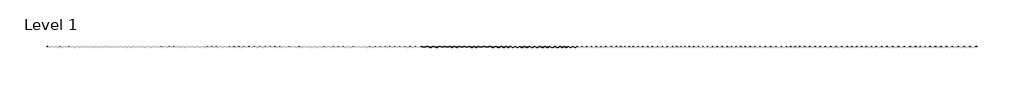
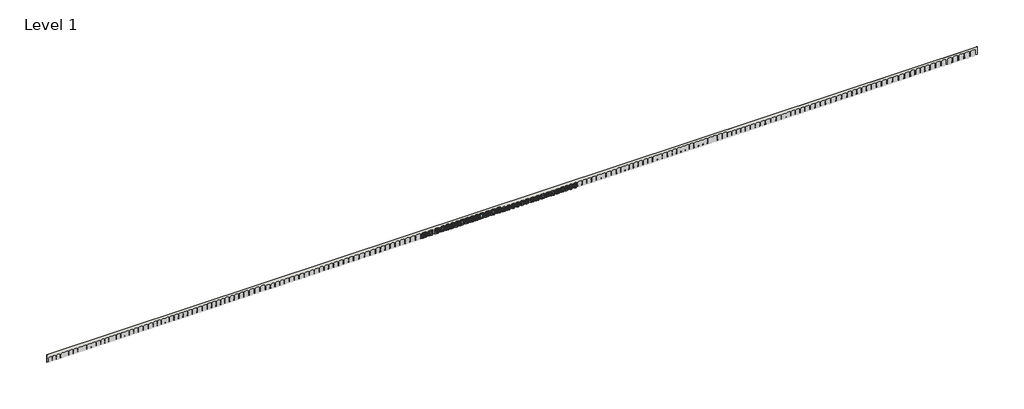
# One storey, part 2 of 3: 31 windows, 1 wall.
"""IFC4 building model written with IfcOpenShell, lengths in millimetres."""

from ifc_helpers import new_model, si_unit, frame, origin, place, context, project, spatial, polyline, outline, extrude, transform, mapped, element, save
from components import window_4662dd5e, window_cdd08d65, window_1ecaf045, window_50e5a4c0, window_b4d974a7, window_896159a1, window_2981d4df, window_d05f0d2b, window_b6a6f03b, window_d624beb0, window_91017d7e, window_d2643ceb, window_cc05f0d5, window_56d50813, window_de865a25, window_f46e62fe, window_3b753958, window_ab0b5ac2, window_0839f293, window_99e7ff35, window_ce1bcf7c, window_315856e1, window_a9078dc5, window_ffebbee1, window_79af763f, window_49bc2394, window_c44c3662, window_8911c9c3, window_26590843, window_b16b5d22, window_17699709

model = new_model("IFC4")

# Units and contexts
model_context = context("Model", 3, world=origin())
ifc_project = project(units=[si_unit("LENGTHUNIT", "METRE", prefix="MILLI")], contexts=[model_context])

# Site, building, storey
site = spatial("IfcSite", under=ifc_project)
building = spatial("IfcBuilding", under=site)
storey = spatial("IfcBuildingStorey", under=building, Name="Level 1", Elevation=0.0)

# Wall
placement = place(None, origin())
element("IfcWall", 1, ObjectType="Wall 1", at=placement, inside=storey, context=model_context, shape_type="SweptSolid", body=[
    extrude(outline(polyline([(0.0, 387151.4233676), (4000.0, 387151.4233676), (4000.0, -89848.5766324), (0.0, -89848.5766324), (0.0, -89038.5766324), (2025.398, -89038.5766324), (2025.398, -87258.5766324), (0.0, -87258.5766324), (0.0, -86938.5766324), (2025.398, -86938.5766324), (2025.398, -85158.5766324), (0.0, -85158.5766324), (0.0, -84838.5766324), (2025.398, -84838.5766324), (2025.398, -83058.5766324), (0.0, -83058.5766324), (0.0, -82638.5766324), (2025.398, -82638.5766324), (2025.398, -80858.5766324), (0.0, -80858.5766324), (0.0, -80638.5766324), (2025.398, -80638.5766324), (2025.398, -78658.5766324), (0.0, -78658.5766324), (0.0, -78338.5766324), (2025.398, -78338.5766324), (2025.398, -76358.5766324), (0.0, -76358.5766324), (0.0, -76138.5766324), (2025.398, -76138.5766324), (2025.398, -74158.5766324), (0.0, -74158.5766324), (0.0, -73838.5766324), (2025.398, -73838.5766324), (2025.398, -71858.5766324), (0.0, -71858.5766324), (0.0, -71638.5766324), (2025.398, -71638.5766324), (2025.398, -69458.5766324), (0.0, -69458.5766324), (0.0, -69238.5766324), (2025.398, -69238.5766324), (2025.398, -67058.5766324), (0.0, -67058.5766324), (0.0, -66838.5766324), (2025.398, -66838.5766324), (2025.398, -64658.5766324), (0.0, -64658.5766324), (0.0, -64438.5766324), (2025.398, -64438.5766324), (2025.398, -62258.5766324), (0.0, -62258.5766324), (0.0, -62038.5766324), (2225.398, -62038.5766324), (2225.398, -60258.5766324), (0.0, -60258.5766324), (0.0, -60038.5766324), (2225.398, -60038.5766324), (2225.398, -58258.5766324), (0.0, -58258.5766324), (0.0, -58038.5766324), (2225.398, -58038.5766324), (2225.398, -56258.5766324), (0.0, -56258.5766324), (0.0, -56138.5766324), (2225.398, -56138.5766324), (2225.398, -54358.5766324), (0.0, -54358.5766324), (0.0, -54138.5766324), (2225.398, -54138.5766324), (2225.398, -52158.5766324), (0.0, -52158.5766324), (0.0, -51838.5766324), (2225.398, -51838.5766324), (2225.398, -49858.5766324), (0.0, -49858.5766324), (0.0, -49638.5766324), (2225.398, -49638.5766324), (2225.398, -47658.5766324), (0.0, -47658.5766324), (0.0, -47438.5766324), (2225.398, -47438.5766324), (2225.398, -45458.5766324), (0.0, -45458.5766324), (0.0, -45238.5766324), (2225.398, -45238.5766324), (2225.398, -43058.5766324), (0.0, -43058.5766324), (0.0, -42738.5766324), (2225.398, -42738.5766324), (2225.398, -40558.5766324), (0.0, -40558.5766324), (0.0, -40238.5766324), (2225.398, -40238.5766324), (2225.398, -38058.5766324), (0.0, -38058.5766324), (0.0, -37638.5766324), (2225.398, -37638.5766324), (2225.398, -35458.5766324), (0.0, -35458.5766324), (0.0, -35138.5766324), (2425.398, -35138.5766324), (2425.398, -33358.5766324), (0.0, -33358.5766324), (0.0, -33138.5766324), (2425.398, -33138.5766324), (2425.398, -31358.5766324), (0.0, -31358.5766324), (0.0, -30938.5766324), (2425.398, -30938.5766324), (2425.398, -29158.5766324), (0.0, -29158.5766324), (0.0, -28938.5766324), (2425.398, -28938.5766324), (2425.398, -27158.5766324), (0.0, -27158.5766324), (0.0, -26838.5766324), (2425.398, -26838.5766324), (2425.398, -24858.5766324), (0.0, -24858.5766324), (0.0, -24438.5766324), (2425.398, -24438.5766324), (2425.398, -22458.5766324), (0.0, -22458.5766324), (0.0, -22138.5766324), (2425.398, -22138.5766324), (2425.398, -20158.5766324), (0.0, -20158.5766324), (0.0, -19838.5766324), (2425.398, -19838.5766324), (2425.398, -17858.5766324), (0.0, -17858.5766324), (0.0, -17538.5766324), (2425.398, -17538.5766324), (2425.398, -15358.5766324), (0.0, -15358.5766324), (0.0, -15138.5766324), (2425.398, -15138.5766324), (2425.398, -12958.5766324), (0.0, -12958.5766324), (0.0, -12538.5766324), (2425.398, -12538.5766324), (2425.398, -10358.5766324), (0.0, -10358.5766324), (0.0, -9938.5766324), (2425.398, -9938.5766324), (2425.398, -7758.5766324), (0.0, -7758.5766324), (0.0, -7338.5766324), (2625.398, -7338.5766324), (2625.398, -5558.5766324), (0.0, -5558.5766324), (0.0, -5038.5766324), (2625.398, -5038.5766324), (2625.398, -3258.5766324), (0.0, -3258.5766324), (0.0, -2738.5766324), (2625.398, -2738.5766324), (2625.398, -958.5766324), (0.0, -958.5766324), (0.0, -538.5766324), (2625.398, -538.5766324), (2625.398, 1241.4233676), (0.0, 1241.4233676), (0.0, 1561.4233676), (2625.398, 1561.4233676), (2625.398, 3541.4233676), (0.0, 3541.4233676), (0.0, 3961.4233676), (2625.398, 3961.4233676), (2625.398, 5941.4233676), (0.0, 5941.4233676), (0.0, 6461.4233676), (2625.398, 6461.4233676), (2625.398, 8441.4233676), (0.0, 8441.4233676), (0.0, 9061.4233676), (2625.398, 9061.4233676), (2625.398, 11041.4233676), (0.0, 11041.4233676), (0.0, 11361.4233676), (2625.398, 11361.4233676), (2625.398, 13541.4233676), (0.0, 13541.4233676), (0.0, 14161.4233676), (2625.398, 14161.4233676), (2625.398, 16341.4233676), (0.0, 16341.4233676), (0.0, 16961.4233676), (2625.398, 16961.4233676), (2625.398, 19141.4233676), (0.0, 19141.4233676), (0.0, 19761.4233676), (2625.398, 19761.4233676), (2625.398, 21941.4233676), (0.0, 21941.4233676), (0.0, 22474.9233676), (2025.398, 22474.9233676), (2025.398, 24427.9233676), (0.0, 24427.9233676), (0.0, 24974.9233676), (2025.398, 24974.9233676), (2025.398, 26927.9233676), (0.0, 26927.9233676), (0.0, 27474.9233676), (2025.398, 27474.9233676), (2025.398, 29427.9233676), (0.0, 29427.9233676), (0.0, 29774.9233676), (2025.398, 29774.9233676), (2025.398, 31727.9233676), (0.0, 31727.9233676), (0.0, 32074.9233676), (2025.398, 32074.9233676), (2025.398, 34227.9233676), (0.0, 34227.9233676), (0.0, 34674.9233676), (2025.398, 34674.9233676), (2025.398, 36827.9233676), (0.0, 36827.9233676), (0.0, 37074.9233676), (2025.398, 37074.9233676), (2025.398, 39227.9233676), (0.0, 39227.9233676), (0.0, 39774.9233676), (2025.398, 39774.9233676), (2025.398, 41927.9233676), (0.0, 41927.9233676), (0.0, 42174.9233676), (2025.398, 42174.9233676), (2025.398, 44527.9233676), (0.0, 44527.9233676), (0.0, 44774.9233676), (2025.398, 44774.9233676), (2025.398, 47127.9233676), (0.0, 47127.9233676), (0.0, 47374.9233676), (2025.398, 47374.9233676), (2025.398, 49727.9233676), (0.0, 49727.9233676), (0.0, 49974.9233676), (2225.398, 49974.9233676), (2225.398, 51927.9233676), (0.0, 51927.9233676), (0.0, 52474.9233676), (2225.398, 52474.9233676), (2225.398, 54427.9233676), (0.0, 54427.9233676), (0.0, 54874.9233676), (2225.398, 54874.9233676), (2225.398, 56827.9233676), (0.0, 56827.9233676), (0.0, 57274.9233676), (2225.398, 57274.9233676), (2225.398, 59427.9233676), (0.0, 59427.9233676), (0.0, 59874.9233676), (2225.398, 59874.9233676), (2225.398, 62027.9233676), (0.0, 62027.9233676), (0.0, 62474.9233676), (2225.398, 62474.9233676), (2225.398, 64627.9233676), (0.0, 64627.9233676), (0.0, 64974.9233676), (2225.398, 64974.9233676), (2225.398, 67127.9233676), (0.0, 67127.9233676), (0.0, 67674.9233676), (2225.398, 67674.9233676), (2225.398, 70027.9233676), (0.0, 70027.9233676), (0.0, 70474.9233676), (2225.398, 70474.9233676), (2225.398, 72827.9233676), (0.0, 72827.9233676), (0.0, 73174.9233676), (2225.398, 73174.9233676), (2225.398, 75527.9233676), (0.0, 75527.9233676), (0.0, 76074.9233676), (2225.398, 76074.9233676), (2225.398, 78427.9233676), (0.0, 78427.9233676), (0.0, 78874.9233676), (2425.398, 78874.9233676), (2425.398, 80827.9233676), (0.0, 80827.9233676), (0.0, 81374.9233676), (2425.398, 81374.9233676), (2425.398, 83327.9233676), (0.0, 83327.9233676), (0.0, 83874.9233676), (2425.398, 83874.9233676), (2425.398, 85827.9233676), (0.0, 85827.9233676), (0.0, 86374.9233676), (2425.398, 86374.9233676), (2425.398, 88327.9233676), (0.0, 88327.9233676), (0.0, 88774.9233676), (2425.398, 88774.9233676), (2425.398, 90927.9233676), (0.0, 90927.9233676), (0.0, 91274.9233676), (2425.398, 91274.9233676), (2425.398, 93427.9233676), (0.0, 93427.9233676), (0.0, 93974.9233676), (2425.398, 93974.9233676), (2425.398, 96127.9233676), (0.0, 96127.9233676), (0.0, 96674.9233676), (2425.398, 96674.9233676), (2425.398, 98827.9233676), (0.0, 98827.9233676), (0.0, 99374.9233676), (2425.398, 99374.9233676), (2425.398, 101727.9233676), (0.0, 101727.9233676), (0.0, 102474.9233676), (2425.398, 102474.9233676), (2425.398, 104827.9233676), (0.0, 104827.9233676), (0.0, 105674.9233676), (2425.398, 105674.9233676), (2425.398, 108027.9233676), (0.0, 108027.9233676), (0.0, 108874.9233676), (2425.398, 108874.9233676), (2425.398, 111227.9233676), (0.0, 111227.9233676), (0.0, 111974.9233676), (2625.398, 111974.9233676), (2625.398, 113927.9233676), (0.0, 113927.9233676), (0.0, 114574.9233676), (2625.398, 114574.9233676), (2625.398, 116527.9233676), (0.0, 116527.9233676), (0.0, 116974.9233676), (2625.398, 116974.9233676), (2625.398, 118927.9233676), (0.0, 118927.9233676), (0.0, 119374.9233676), (2625.398, 119374.9233676), (2625.398, 121327.9233676), (0.0, 121327.9233676), (0.0, 121774.9233676), (2625.398, 121774.9233676), (2625.398, 123927.9233676), (0.0, 123927.9233676), (0.0, 124374.9233676), (2625.398, 124374.9233676), (2625.398, 126527.9233676), (0.0, 126527.9233676), (0.0, 126874.9233676), (2625.398, 126874.9233676), (2625.398, 129027.9233676), (0.0, 129027.9233676), (0.0, 129274.9233676), (2625.398, 129274.9233676), (2625.398, 131427.9233676), (0.0, 131427.9233676), (0.0, 131674.9233676), (2625.398, 131674.9233676), (2625.398, 134027.9233676), (0.0, 134027.9233676), (0.0, 134674.9233676), (2625.398, 134674.9233676), (2625.398, 137027.9233676), (0.0, 137027.9233676), (0.0, 137674.9233676), (2625.398, 137674.9233676), (2625.398, 140027.9233676), (0.0, 140027.9233676), (0.0, 140574.9233676), (2625.398, 140574.9233676), (2625.398, 142927.9233676), (0.0, 142927.9233676), (0.0, 143461.4233676), (2025.398, 143461.4233676), (2025.398, 145241.4233676), (0.0, 145241.4233676), (0.0, 145861.4233676), (2025.398, 145861.4233676), (2025.398, 147641.4233676), (0.0, 147641.4233676), (0.0, 148261.4233676), (2025.398, 148261.4233676), (2025.398, 150041.4233676), (0.0, 150041.4233676), (0.0, 150561.4233676), (2025.398, 150561.4233676), (2025.398, 152341.4233676), (0.0, 152341.4233676), (0.0, 152861.4233676), (2025.398, 152861.4233676), (2025.398, 154841.4233676), (0.0, 154841.4233676), (0.0, 155261.4233676), (2025.398, 155261.4233676), (2025.398, 157241.4233676), (0.0, 157241.4233676), (0.0, 157961.4233676), (2025.398, 157961.4233676), (2025.398, 159941.4233676), (0.0, 159941.4233676), (0.0, 160561.4233676), (2025.398, 160561.4233676), (2025.398, 162541.4233676), (0.0, 162541.4233676), (0.0, 163161.4233676), (2025.398, 163161.4233676), (2025.398, 165341.4233676), (0.0, 165341.4233676), (0.0, 165761.4233676), (2025.398, 165761.4233676), (2025.398, 167941.4233676), (0.0, 167941.4233676), (0.0, 168261.4233676), (2025.398, 168261.4233676), (2025.398, 170441.4233676), (0.0, 170441.4233676), (0.0, 170861.4233676), (2025.398, 170861.4233676), (2025.398, 173041.4233676), (0.0, 173041.4233676), (0.0, 173461.4233676), (2225.398, 173461.4233676), (2225.398, 175241.4233676), (0.0, 175241.4233676), (0.0, 175561.4233676), (2225.398, 175561.4233676), (2225.398, 177341.4233676), (0.0, 177341.4233676), (0.0, 177761.4233676), (2225.398, 177761.4233676), (2225.398, 179541.4233676), (0.0, 179541.4233676), (0.0, 180061.4233676), (2225.398, 180061.4233676), (2225.398, 181841.4233676), (0.0, 181841.4233676), (0.0, 182361.4233676), (2225.398, 182361.4233676), (2225.398, 184341.4233676), (0.0, 184341.4233676), (0.0, 184761.4233676), (2225.398, 184761.4233676), (2225.398, 186741.4233676), (0.0, 186741.4233676), (0.0, 187161.4233676), (2225.398, 187161.4233676), (2225.398, 189141.4233676), (0.0, 189141.4233676), (0.0, 189561.4233676), (2225.398, 189561.4233676), (2225.398, 191541.4233676), (0.0, 191541.4233676), (0.0, 191961.4233676), (2225.398, 191961.4233676), (2225.398, 194141.4233676), (0.0, 194141.4233676), (0.0, 194361.4233676), (2225.398, 194361.4233676), (2225.398, 196541.4233676), (0.0, 196541.4233676), (0.0, 197061.4233676), (2225.398, 197061.4233676), (2225.398, 199241.4233676), (0.0, 199241.4233676), (0.0, 199661.4233676), (2225.398, 199661.4233676), (2225.398, 201841.4233676), (0.0, 201841.4233676), (0.0, 202361.4233676), (2425.398, 202361.4233676), (2425.398, 204141.4233676), (0.0, 204141.4233676), (0.0, 204561.4233676), (2425.398, 204561.4233676), (2425.398, 206341.4233676), (0.0, 206341.4233676), (0.0, 206661.4233676), (2425.398, 206661.4233676), (2425.398, 208441.4233676), (0.0, 208441.4233676), (0.0, 208861.4233676), (2425.398, 208861.4233676), (2425.398, 210641.4233676), (0.0, 210641.4233676), (0.0, 211061.4233676), (2425.398, 211061.4233676), (2425.398, 213041.4233676), (0.0, 213041.4233676), (0.0, 213461.4233676), (2425.398, 213461.4233676), (2425.398, 215441.4233676), (0.0, 215441.4233676), (0.0, 215961.4233676), (2425.398, 215961.4233676), (2425.398, 217941.4233676), (0.0, 217941.4233676), (0.0, 218361.4233676), (2425.398, 218361.4233676), (2425.398, 220341.4233676), (0.0, 220341.4233676), (0.0, 220861.4233676), (2425.398, 220861.4233676), (2425.398, 223041.4233676), (0.0, 223041.4233676), (0.0, 223361.4233676), (2425.398, 223361.4233676), (2425.398, 225541.4233676), (0.0, 225541.4233676), (0.0, 225861.4233676), (2425.398, 225861.4233676), (2425.398, 228041.4233676), (0.0, 228041.4233676), (0.0, 228461.4233676), (2425.398, 228461.4233676), (2425.398, 230641.4233676), (0.0, 230641.4233676), (0.0, 230961.4233676), (2625.398, 230961.4233676), (2625.398, 232741.4233676), (0.0, 232741.4233676), (0.0, 233261.4233676), (2625.398, 233261.4233676), (2625.398, 235041.4233676), (0.0, 235041.4233676), (0.0, 235361.4233676), (2625.398, 235361.4233676), (2625.398, 237141.4233676), (0.0, 237141.4233676), (0.0, 237461.4233676), (2625.398, 237461.4233676), (2625.398, 239241.4233676), (0.0, 239241.4233676), (0.0, 239661.4233676), (2625.398, 239661.4233676), (2625.398, 241641.4233676), (0.0, 241641.4233676), (0.0, 242061.4233676), (2625.398, 242061.4233676), (2625.398, 244041.4233676), (0.0, 244041.4233676), (0.0, 244361.4233676), (2625.398, 244361.4233676), (2625.398, 246341.4233676), (0.0, 246341.4233676), (0.0, 246661.4233676), (2625.398, 246661.4233676), (2625.398, 248641.4233676), (0.0, 248641.4233676), (0.0, 249061.4233676), (2625.398, 249061.4233676), (2625.398, 251241.4233676), (0.0, 251241.4233676), (0.0, 251461.4233676), (2625.398, 251461.4233676), (2625.398, 253641.4233676), (0.0, 253641.4233676), (0.0, 254061.4233676), (2625.398, 254061.4233676), (2625.398, 256241.4233676), (0.0, 256241.4233676), (0.0, 256561.4233676), (2625.398, 256561.4233676), (2625.398, 258741.4233676), (0.0, 258741.4233676), (0.0, 259074.9233676), (2025.398, 259074.9233676), (2025.398, 261027.9233676), (0.0, 261027.9233676), (0.0, 261374.9233676), (2025.398, 261374.9233676), (2025.398, 263327.9233676), (0.0, 263327.9233676), (0.0, 263674.9233676), (2025.398, 263674.9233676), (2025.398, 265627.9233676), (0.0, 265627.9233676), (0.0, 266074.9233676), (2025.398, 266074.9233676), (2025.398, 268027.9233676), (0.0, 268027.9233676), (0.0, 268374.9233676), (2025.398, 268374.9233676), (2025.398, 270527.9233676), (0.0, 270527.9233676), (0.0, 270874.9233676), (2025.398, 270874.9233676), (2025.398, 273027.9233676), (0.0, 273027.9233676), (0.0, 273374.9233676), (2025.398, 273374.9233676), (2025.398, 275527.9233676), (0.0, 275527.9233676), (0.0, 275974.9233676), (2025.398, 275974.9233676), (2025.398, 278127.9233676), (0.0, 278127.9233676), (0.0, 278674.9233676), (2025.398, 278674.9233676), (2025.398, 281027.9233676), (0.0, 281027.9233676), (0.0, 281374.9233676), (2025.398, 281374.9233676), (2025.398, 283727.9233676), (0.0, 283727.9233676), (0.0, 284174.9233676), (2025.398, 284174.9233676), (2025.398, 286527.9233676), (0.0, 286527.9233676), (0.0, 286774.9233676), (2025.398, 286774.9233676), (2025.398, 289127.9233676), (0.0, 289127.9233676), (0.0, 289374.9233676), (2225.398, 289374.9233676), (2225.398, 291327.9233676), (0.0, 291327.9233676), (0.0, 291674.9233676), (2225.398, 291674.9233676), (2225.398, 293627.9233676), (0.0, 293627.9233676), (0.0, 293974.9233676), (2225.398, 293974.9233676), (2225.398, 295927.9233676), (0.0, 295927.9233676), (0.0, 296474.9233676), (2225.398, 296474.9233676), (2225.398, 298427.9233676), (0.0, 298427.9233676), (0.0, 298874.9233676), (2225.398, 298874.9233676), (2225.398, 301027.9233676), (0.0, 301027.9233676), (0.0, 301574.9233676), (2225.398, 301574.9233676), (2225.398, 303727.9233676), (0.0, 303727.9233676), (0.0, 304274.9233676), (2225.398, 304274.9233676), (2225.398, 306427.9233676), (0.0, 306427.9233676), (0.0, 306874.9233676), (2225.398, 306874.9233676), (2225.398, 309027.9233676), (0.0, 309027.9233676), (0.0, 309474.9233676), (2225.398, 309474.9233676), (2225.398, 311827.9233676), (0.0, 311827.9233676), (0.0, 312174.9233676), (2225.398, 312174.9233676), (2225.398, 314527.9233676), (0.0, 314527.9233676), (0.0, 314974.9233676), (2225.398, 314974.9233676), (2225.398, 317327.9233676), (0.0, 317327.9233676), (0.0, 317774.9233676), (2225.398, 317774.9233676), (2225.398, 320127.9233676), (0.0, 320127.9233676), (0.0, 320574.9233676), (2425.398, 320574.9233676), (2425.398, 322527.9233676), (0.0, 322527.9233676), (0.0, 323074.9233676), (2425.398, 323074.9233676), (2425.398, 325027.9233676), (0.0, 325027.9233676), (0.0, 325574.9233676), (2425.398, 325574.9233676), (2425.398, 327527.9233676), (0.0, 327527.9233676), (0.0, 328074.9233676), (2425.398, 328074.9233676), (2425.398, 330027.9233676), (0.0, 330027.9233676), (0.0, 330474.9233676), (2425.398, 330474.9233676), (2425.398, 332627.9233676), (0.0, 332627.9233676), (0.0, 332974.9233676), (2425.398, 332974.9233676), (2425.398, 335127.9233676), (0.0, 335127.9233676), (0.0, 335574.9233676), (2425.398, 335574.9233676), (2425.398, 337727.9233676), (0.0, 337727.9233676), (0.0, 338274.9233676), (2425.398, 338274.9233676), (2425.398, 340427.9233676), (0.0, 340427.9233676), (0.0, 341074.9233676), (2425.398, 341074.9233676), (2425.398, 343427.9233676), (0.0, 343427.9233676), (0.0, 343974.9233676), (2425.398, 343974.9233676), (2425.398, 346327.9233676), (0.0, 346327.9233676), (0.0, 346974.9233676), (2425.398, 346974.9233676), (2425.398, 349327.9233676), (0.0, 349327.9233676), (0.0, 349974.9233676), (2425.398, 349974.9233676), (2425.398, 352327.9233676), (0.0, 352327.9233676), (0.0, 352974.9233676), (2625.398, 352974.9233676), (2625.398, 354927.9233676), (0.0, 354927.9233676), (0.0, 355674.9233676), (2625.398, 355674.9233676), (2625.398, 357627.9233676), (0.0, 357627.9233676), (0.0, 358074.9233676), (2625.398, 358074.9233676), (2625.398, 360027.9233676), (0.0, 360027.9233676), (0.0, 360474.9233676), (2625.398, 360474.9233676), (2625.398, 362427.9233676), (0.0, 362427.9233676), (0.0, 363174.9233676), (2625.398, 363174.9233676), (2625.398, 365327.9233676), (0.0, 365327.9233676), (0.0, 365974.9233676), (2625.398, 365974.9233676), (2625.398, 368127.9233676), (0.0, 368127.9233676), (0.0, 368774.9233676), (2625.398, 368774.9233676), (2625.398, 370927.9233676), (0.0, 370927.9233676), (0.0, 371774.9233676), (2625.398, 371774.9233676), (2625.398, 373927.9233676), (0.0, 373927.9233676), (0.0, 374574.9233676), (2625.398, 374574.9233676), (2625.398, 376927.9233676), (0.0, 376927.9233676), (0.0, 377674.9233676), (2625.398, 377674.9233676), (2625.398, 380027.9233676), (0.0, 380027.9233676), (0.0, 380674.9233676), (2625.398, 380674.9233676), (2625.398, 383027.9233676), (0.0, 383027.9233676), (0.0, 383674.9233676), (2625.398, 383674.9233676), (2625.398, 386027.9233676), (0.0, 386027.9233676), (0.0, 387151.4233676)])), frame((0.0, -2817.7066667, 0.0), z_axis=(0.0, 1.0, 0.0), x_axis=(0.0, 0.0, 1.0)), (0.0, 0.0, 1.0), 152.4),
])

# Windows
window_shape = window_4662dd5e(model_context)
element("IfcWindow", 2, ObjectType="Pollard_Windows_Tudor Casement Bows and Bays : AML-BAY 30 AFR0616-12-500_GC", at=placement, inside=storey, context=model_context, shape_type="MappedRepresentation", body=[
    mapped(window_shape, transform((103651.4233676, -2742.926046, 0.0), x_axis=(1.0, 0.0, 0.0), y_axis=(0.0, 1.0, 0.0), z_axis=(0.0, 0.0, 1.0))),
])
window_2_shape = window_cdd08d65(model_context)
element("IfcWindow", 3, ObjectType="Pollard_Windows_Tudor Casement Bows and Bays : AML-BAY 30 AFR0616-12-600", at=placement, inside=storey, context=model_context, shape_type="MappedRepresentation", body=[
    mapped(window_2_shape, transform((106851.4233676, -2742.926046, 0.0), x_axis=(1.0, 0.0, 0.0), y_axis=(0.0, 1.0, 0.0), z_axis=(0.0, 0.0, 1.0))),
])
window_3_shape = window_1ecaf045(model_context)
element("IfcWindow", 4, ObjectType="Pollard_Windows_Tudor Casement Bows and Bays : AML-BAY 30 AFR0616-12-600_GC", at=placement, inside=storey, context=model_context, shape_type="MappedRepresentation", body=[
    mapped(window_3_shape, transform((110051.4233676, -2742.926046, 0.0), x_axis=(1.0, 0.0, 0.0), y_axis=(0.0, 1.0, 0.0), z_axis=(0.0, 0.0, 1.0))),
])
window_4_shape = window_50e5a4c0(model_context)
element("IfcWindow", 5, ObjectType="Pollard_Windows_Tudor Casement Bows and Bays : AML-BAY 30 AFR0618-08-500", at=placement, inside=storey, context=model_context, shape_type="MappedRepresentation", body=[
    mapped(window_4_shape, transform((112951.4233676, -2742.926046, 0.0), x_axis=(1.0, 0.0, 0.0), y_axis=(0.0, 1.0, 0.0), z_axis=(0.0, 0.0, 1.0))),
])
window_5_shape = window_b4d974a7(model_context)
element("IfcWindow", 6, ObjectType="Pollard_Windows_Tudor Casement Bows and Bays : AML-BAY 30 AFR0618-08-500_GC", at=placement, inside=storey, context=model_context, shape_type="MappedRepresentation", body=[
    mapped(window_5_shape, transform((115551.4233676, -2742.926046, 0.0), x_axis=(1.0, 0.0, 0.0), y_axis=(0.0, 1.0, 0.0), z_axis=(0.0, 0.0, 1.0))),
])
window_6_shape = window_896159a1(model_context)
element("IfcWindow", 7, ObjectType="Pollard_Windows_Tudor Casement Bows and Bays : AML-BAY 30 AFR0618-08-600", at=placement, inside=storey, context=model_context, shape_type="MappedRepresentation", body=[
    mapped(window_6_shape, transform((117951.4233676, -2742.926046, 0.0), x_axis=(1.0, 0.0, 0.0), y_axis=(0.0, 1.0, 0.0), z_axis=(0.0, 0.0, 1.0))),
])
window_7_shape = window_2981d4df(model_context)
element("IfcWindow", 8, ObjectType="Pollard_Windows_Tudor Casement Bows and Bays : AML-BAY 30 AFR0618-08-600_GC", at=placement, inside=storey, context=model_context, shape_type="MappedRepresentation", body=[
    mapped(window_7_shape, transform((120351.4233676, -2742.926046, 0.0), x_axis=(1.0, 0.0, 0.0), y_axis=(0.0, 1.0, 0.0), z_axis=(0.0, 0.0, 1.0))),
])
window_8_shape = window_d05f0d2b(model_context)
element("IfcWindow", 9, ObjectType="Pollard_Windows_Tudor Casement Bows and Bays : AML-BAY 30 AFR0618-10-500", at=placement, inside=storey, context=model_context, shape_type="MappedRepresentation", body=[
    mapped(window_8_shape, transform((122851.4233676, -2742.926046, 0.0), x_axis=(1.0, 0.0, 0.0), y_axis=(0.0, 1.0, 0.0), z_axis=(0.0, 0.0, 1.0))),
])
window_9_shape = window_b6a6f03b(model_context)
element("IfcWindow", 10, ObjectType="Pollard_Windows_Tudor Casement Bows and Bays : AML-BAY 30 AFR0618-10-500_GC", at=placement, inside=storey, context=model_context, shape_type="MappedRepresentation", body=[
    mapped(window_9_shape, transform((125451.4233676, -2742.926046, 0.0), x_axis=(1.0, 0.0, 0.0), y_axis=(0.0, 1.0, 0.0), z_axis=(0.0, 0.0, 1.0))),
])
window_10_shape = window_d624beb0(model_context)
element("IfcWindow", 11, ObjectType="Pollard_Windows_Tudor Casement Bows and Bays : AML-BAY 30 AFR0618-10-600", at=placement, inside=storey, context=model_context, shape_type="MappedRepresentation", body=[
    mapped(window_10_shape, transform((127951.4233676, -2742.926046, 0.0), x_axis=(1.0, 0.0, 0.0), y_axis=(0.0, 1.0, 0.0), z_axis=(0.0, 0.0, 1.0))),
])
window_11_shape = window_91017d7e(model_context)
element("IfcWindow", 12, ObjectType="Pollard_Windows_Tudor Casement Bows and Bays : AML-BAY 30 AFR0618-10-600_GC", at=placement, inside=storey, context=model_context, shape_type="MappedRepresentation", body=[
    mapped(window_11_shape, transform((130351.4233676, -2742.926046, 0.0), x_axis=(1.0, 0.0, 0.0), y_axis=(0.0, 1.0, 0.0), z_axis=(0.0, 0.0, 1.0))),
])
window_12_shape = window_d2643ceb(model_context)
element("IfcWindow", 13, ObjectType="Pollard_Windows_Tudor Casement Bows and Bays : AML-BAY 30 AFR0618-12-500", at=placement, inside=storey, context=model_context, shape_type="MappedRepresentation", body=[
    mapped(window_12_shape, transform((132851.4233676, -2742.926046, 0.0), x_axis=(1.0, 0.0, 0.0), y_axis=(0.0, 1.0, 0.0), z_axis=(0.0, 0.0, 1.0))),
])
window_13_shape = window_cc05f0d5(model_context)
element("IfcWindow", 14, ObjectType="Pollard_Windows_Tudor Casement Bows and Bays : AML-BAY 30 AFR0618-12-500_GC", at=placement, inside=storey, context=model_context, shape_type="MappedRepresentation", body=[
    mapped(window_13_shape, transform((135851.4233676, -2742.926046, 0.0), x_axis=(1.0, 0.0, 0.0), y_axis=(0.0, 1.0, 0.0), z_axis=(0.0, 0.0, 1.0))),
])
window_14_shape = window_56d50813(model_context)
element("IfcWindow", 15, ObjectType="Pollard_Windows_Tudor Casement Bows and Bays : AML-BAY 30 AFR0618-12-600", at=placement, inside=storey, context=model_context, shape_type="MappedRepresentation", body=[
    mapped(window_14_shape, transform((138851.4233676, -2742.926046, 0.0), x_axis=(1.0, 0.0, 0.0), y_axis=(0.0, 1.0, 0.0), z_axis=(0.0, 0.0, 1.0))),
])
window_15_shape = window_de865a25(model_context)
element("IfcWindow", 16, ObjectType="Pollard_Windows_Tudor Casement Bows and Bays : AML-BAY 30 AFR0618-12-600_GC", at=placement, inside=storey, context=model_context, shape_type="MappedRepresentation", body=[
    mapped(window_15_shape, transform((141751.4233676, -2742.926046, 0.0), x_axis=(1.0, 0.0, 0.0), y_axis=(0.0, 1.0, 0.0), z_axis=(0.0, 0.0, 1.0))),
])
window_16_shape = window_f46e62fe(model_context)
element("IfcWindow", 17, ObjectType="Pollard_Windows_Tudor Casement Bows and Bays : AML-BAY 45 AFR0512-08-500", at=placement, inside=storey, context=model_context, shape_type="MappedRepresentation", body=[
    mapped(window_16_shape, transform((144351.4233676, -2742.926046, 0.0), x_axis=(1.0, 0.0, 0.0), y_axis=(0.0, 1.0, 0.0), z_axis=(0.0, 0.0, 1.0))),
])
window_17_shape = window_3b753958(model_context)
element("IfcWindow", 18, ObjectType="Pollard_Windows_Tudor Casement Bows and Bays : AML-BAY 45 AFR0512-08-500_GC", at=placement, inside=storey, context=model_context, shape_type="MappedRepresentation", body=[
    mapped(window_17_shape, transform((146751.4233676, -2742.926046, 0.0), x_axis=(1.0, 0.0, 0.0), y_axis=(0.0, 1.0, 0.0), z_axis=(0.0, 0.0, 1.0))),
])
window_18_shape = window_ab0b5ac2(model_context)
element("IfcWindow", 19, ObjectType="Pollard_Windows_Tudor Casement Bows and Bays : AML-BAY 45 AFR0512-08-600", at=placement, inside=storey, context=model_context, shape_type="MappedRepresentation", body=[
    mapped(window_18_shape, transform((149151.4233676, -2742.926046, 0.0), x_axis=(1.0, 0.0, 0.0), y_axis=(0.0, 1.0, 0.0), z_axis=(0.0, 0.0, 1.0))),
])
window_19_shape = window_0839f293(model_context)
element("IfcWindow", 20, ObjectType="Pollard_Windows_Tudor Casement Bows and Bays : AML-BAY 45 AFR0512-08-600_GC", at=placement, inside=storey, context=model_context, shape_type="MappedRepresentation", body=[
    mapped(window_19_shape, transform((151451.4233676, -2742.926046, 0.0), x_axis=(1.0, 0.0, 0.0), y_axis=(0.0, 1.0, 0.0), z_axis=(0.0, 0.0, 1.0))),
])
window_20_shape = window_99e7ff35(model_context)
element("IfcWindow", 21, ObjectType="Pollard_Windows_Tudor Casement Bows and Bays : AML-BAY 45 AFR0512-10-500", at=placement, inside=storey, context=model_context, shape_type="MappedRepresentation", body=[
    mapped(window_20_shape, transform((153851.4233676, -2742.926046, 0.0), x_axis=(1.0, 0.0, 0.0), y_axis=(0.0, 1.0, 0.0), z_axis=(0.0, 0.0, 1.0))),
])
window_21_shape = window_ce1bcf7c(model_context)
element("IfcWindow", 22, ObjectType="Pollard_Windows_Tudor Casement Bows and Bays : AML-BAY 45 AFR0512-10-500_GC", at=placement, inside=storey, context=model_context, shape_type="MappedRepresentation", body=[
    mapped(window_21_shape, transform((156251.4233676, -2742.926046, 0.0), x_axis=(1.0, 0.0, 0.0), y_axis=(0.0, 1.0, 0.0), z_axis=(0.0, 0.0, 1.0))),
])
window_22_shape = window_315856e1(model_context)
element("IfcWindow", 23, ObjectType="Pollard_Windows_Tudor Casement Bows and Bays : AML-BAY 45 AFR0512-10-600", at=placement, inside=storey, context=model_context, shape_type="MappedRepresentation", body=[
    mapped(window_22_shape, transform((158951.4233676, -2742.926046, 0.0), x_axis=(1.0, 0.0, 0.0), y_axis=(0.0, 1.0, 0.0), z_axis=(0.0, 0.0, 1.0))),
])
window_23_shape = window_a9078dc5(model_context)
element("IfcWindow", 24, ObjectType="Pollard_Windows_Tudor Casement Bows and Bays : AML-BAY 45 AFR0512-10-600_GC", at=placement, inside=storey, context=model_context, shape_type="MappedRepresentation", body=[
    mapped(window_23_shape, transform((161551.4233676, -2742.926046, 0.0), x_axis=(1.0, 0.0, 0.0), y_axis=(0.0, 1.0, 0.0), z_axis=(0.0, 0.0, 1.0))),
])
window_24_shape = window_ffebbee1(model_context)
element("IfcWindow", 25, ObjectType="Pollard_Windows_Tudor Casement Bows and Bays : AML-BAY 45 AFR0512-12-500", at=placement, inside=storey, context=model_context, shape_type="MappedRepresentation", body=[
    mapped(window_24_shape, transform((164251.4233676, -2742.926046, 0.0), x_axis=(1.0, 0.0, 0.0), y_axis=(0.0, 1.0, 0.0), z_axis=(0.0, 0.0, 1.0))),
])
window_25_shape = window_79af763f(model_context)
element("IfcWindow", 26, ObjectType="Pollard_Windows_Tudor Casement Bows and Bays : AML-BAY 45 AFR0512-12-500_GC", at=placement, inside=storey, context=model_context, shape_type="MappedRepresentation", body=[
    mapped(window_25_shape, transform((166851.4233676, -2742.926046, 0.0), x_axis=(1.0, 0.0, 0.0), y_axis=(0.0, 1.0, 0.0), z_axis=(0.0, 0.0, 1.0))),
])
window_26_shape = window_49bc2394(model_context)
element("IfcWindow", 27, ObjectType="Pollard_Windows_Tudor Casement Bows and Bays : AML-BAY 45 AFR0512-12-600", at=placement, inside=storey, context=model_context, shape_type="MappedRepresentation", body=[
    mapped(window_26_shape, transform((169351.4233676, -2742.926046, 0.0), x_axis=(1.0, 0.0, 0.0), y_axis=(0.0, 1.0, 0.0), z_axis=(0.0, 0.0, 1.0))),
])
window_27_shape = window_c44c3662(model_context)
element("IfcWindow", 28, ObjectType="Pollard_Windows_Tudor Casement Bows and Bays : AML-BAY 45 AFR0512-12-600_GC", at=placement, inside=storey, context=model_context, shape_type="MappedRepresentation", body=[
    mapped(window_27_shape, transform((171951.4233676, -2742.926046, 0.0), x_axis=(1.0, 0.0, 0.0), y_axis=(0.0, 1.0, 0.0), z_axis=(0.0, 0.0, 1.0))),
])
window_28_shape = window_8911c9c3(model_context)
element("IfcWindow", 29, ObjectType="Pollard_Windows_Tudor Casement Bows and Bays : AML-BAY 45 AFR0514-08-500", at=placement, inside=storey, context=model_context, shape_type="MappedRepresentation", body=[
    mapped(window_28_shape, transform((174351.4233676, -2742.926046, 0.0), x_axis=(1.0, 0.0, 0.0), y_axis=(0.0, 1.0, 0.0), z_axis=(0.0, 0.0, 1.0))),
])
window_29_shape = window_26590843(model_context)
element("IfcWindow", 30, ObjectType="Pollard_Windows_Tudor Casement Bows and Bays : AML-BAY 45 AFR0514-08-500_GC", at=placement, inside=storey, context=model_context, shape_type="MappedRepresentation", body=[
    mapped(window_29_shape, transform((176451.4233676, -2742.926046, 0.0), x_axis=(1.0, 0.0, 0.0), y_axis=(0.0, 1.0, 0.0), z_axis=(0.0, 0.0, 1.0))),
])
window_30_shape = window_b16b5d22(model_context)
element("IfcWindow", 31, ObjectType="Pollard_Windows_Tudor Casement Bows and Bays : AML-BAY 45 AFR0514-08-600", at=placement, inside=storey, context=model_context, shape_type="MappedRepresentation", body=[
    mapped(window_30_shape, transform((178651.4233676, -2742.926046, 0.0), x_axis=(1.0, 0.0, 0.0), y_axis=(0.0, 1.0, 0.0), z_axis=(0.0, 0.0, 1.0))),
])
window_31_shape = window_17699709(model_context)
element("IfcWindow", 32, ObjectType="Pollard_Windows_Tudor Casement Bows and Bays : AML-BAY 45 AFR0514-08-600_GC", at=placement, inside=storey, context=model_context, shape_type="MappedRepresentation", body=[
    mapped(window_31_shape, transform((180951.4233676, -2742.926046, 0.0), x_axis=(1.0, 0.0, 0.0), y_axis=(0.0, 1.0, 0.0), z_axis=(0.0, 0.0, 1.0))),
])

save(model, "model.ifc")
